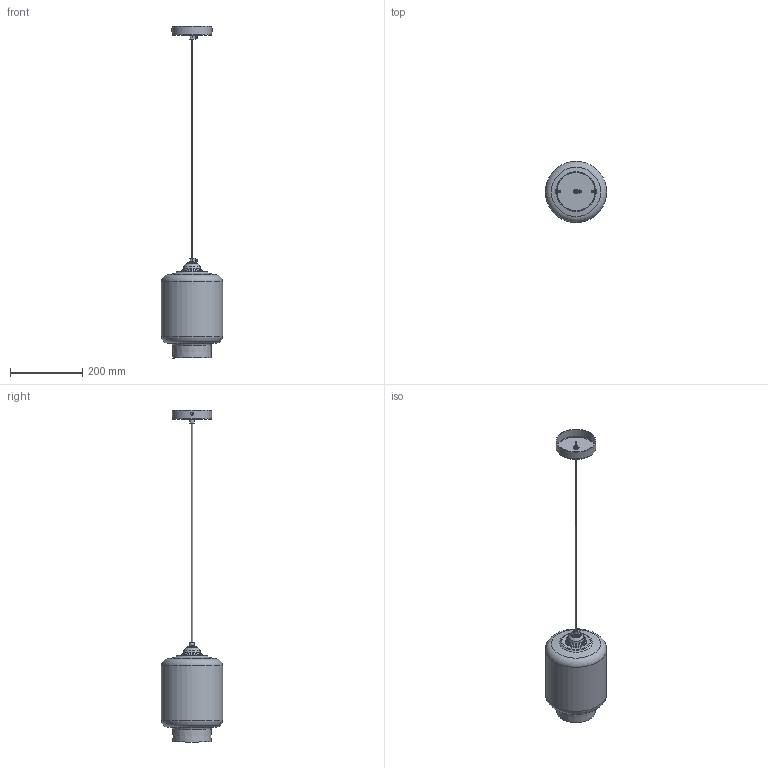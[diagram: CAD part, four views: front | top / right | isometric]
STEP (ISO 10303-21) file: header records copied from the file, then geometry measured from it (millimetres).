
FILE_DESCRIPTION( ( 'STEP AP203' ), '1' );
FILE_NAME( '//srvbf/BF Disegni/KATE/KATE-B Sospensione 3D.stp', '2020-10-16T14:17:26', ( ' ' ), ( ' ' ), 'XStep 1.0', ' ', ' ' );
FILE_SCHEMA( ( 'CONFIG_CONTROL_DESIGN) ( )' ) );
Length unit declared in the file: metre
Products named in the file (15): Assem1; 1; 2; 3; 4; 5; 6; 7; 8; 9; 10; 11; 12; 13; 14
Bounding box: 170 x 170 x 922.22 mm (x, y, z)
Volume: 1167629.8 mm3; surface area: 679324.5 mm2
Topology: 28 solids, 28 shells, 744 faces, 1576 edges, 892 vertices
Faces by surface type: cone 306, cylinder 202, plane 140, torus 88, bspline 8
Full cylindrical faces by diameter (mm): 3 x28, 5.4 x48, 6 x8, 7 x8, 8.8 x4, 9 x72, 10 x4, 34 x2, 42 x2, 45.517 x2, 108.4 x2, 110 x2, 162 x2, 170 x2
Entity records: 9014 total; most frequent: CARTESIAN_POINT 1635, DIRECTION 1550, ORIENTED_EDGE 894, AXIS2_PLACEMENT_3D 732, EDGE_LOOP 696, FACE_OUTER_BOUND 513, EDGE_CURVE 447, VERTEX_POINT 401
